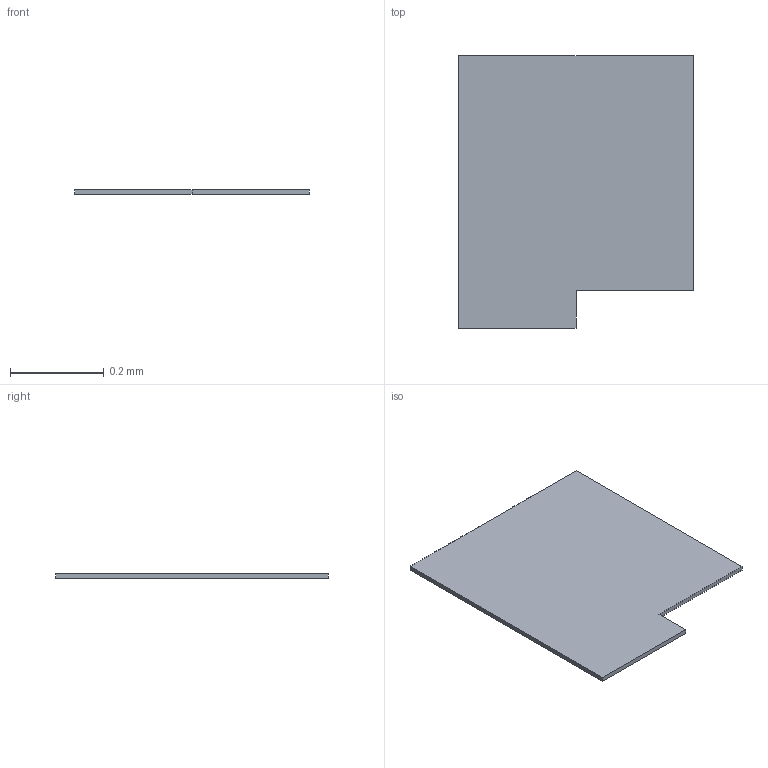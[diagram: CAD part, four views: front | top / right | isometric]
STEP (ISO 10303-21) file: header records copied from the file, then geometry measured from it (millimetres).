
FILE_DESCRIPTION(/* description */ ('STEP AP242 Edition 2','CAx-IF Rec.Pracs.---Representation and Presentation of Product Manufacturing Information (PMI)---4.0---2014-10-13','CAx-IF Rec.Pracs.---3D Tessellated Geometry---0.4---2014-09-14','2;1','CAx-IF Rec.Pracs.---User Defined Attributes---1.5---2016-08-15'),/* implementation_level */ '2;1');
FILE_NAME(/* name */ 'Drone Layout - Surface 381',/* time_stamp */ '2026-10-04T22:22:58Z',/* author */ (''),/* organization */ (''),/* preprocessor_version */ 'ST-DEVELOPER v20',/* originating_system */ 'ONSHAPE BY PTC INC, 1.221',/* authorisation */ ' ');
FILE_SCHEMA (('AP242_MANAGED_MODEL_BASED_3D_ENGINEERING_MIM_LF { 1 0 10303 442 3 1 4 }'));
Length unit declared in the file: metre
Products named in the file (1): pads:1__Body8
Bounding box: 0.5 x 0.58 x 0.01 mm (x, y, z)
Volume: 0 mm3; surface area: 0.6 mm2
Topology: 1 solids, 1 shells, 8 faces, 18 edges, 12 vertices
Faces by surface type: plane 8
Entity records: 235 total; most frequent: CARTESIAN_POINT 39, ORIENTED_EDGE 36, DIRECTION 36, EDGE_CURVE 18, LINE 18, VECTOR 18, VERTEX_POINT 12, AXIS2_PLACEMENT_3D 9
